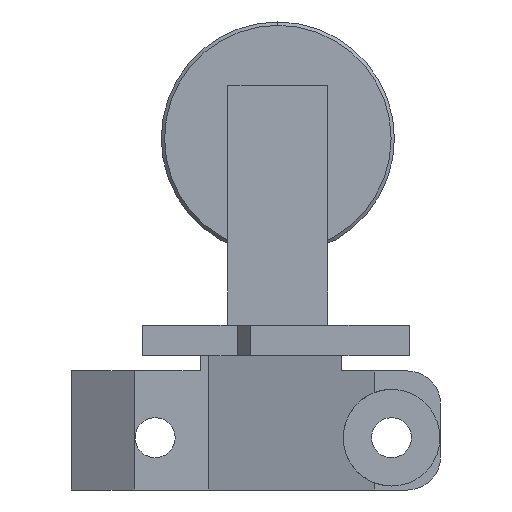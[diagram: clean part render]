
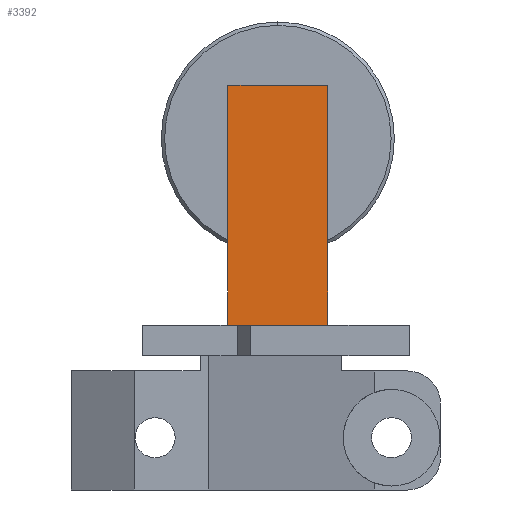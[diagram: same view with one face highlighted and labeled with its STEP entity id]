
A CAD part, left-side view. The second image highlights one B-rep face of the part: STEP entity #3392.
In plain terms, the highlighted planar face has unit normal (-1, 0, 0).
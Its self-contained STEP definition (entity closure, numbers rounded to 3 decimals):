
#58 = CARTESIAN_POINT ( 'NONE',  ( 216.3, 119.918, 67.8 ) ) ;
#131 = CARTESIAN_POINT ( 'NONE',  ( 216.3, 119.918, 31.8 ) ) ;
#185 = VERTEX_POINT ( 'NONE', #1727 ) ;
#209 = EDGE_CURVE ( 'NONE', #185, #4187, #2854, .T. ) ;
#255 = VECTOR ( 'NONE', #2017, 1000. ) ;
#491 = DIRECTION ( 'NONE',  ( 1., 0., 0. ) ) ;
#753 = DIRECTION ( 'NONE',  ( 0., -1., 0. ) ) ;
#838 = FACE_OUTER_BOUND ( 'NONE', #3729, .T. ) ;
#869 = VECTOR ( 'NONE', #753, 1000. ) ;
#914 = LINE ( 'NONE', #4614, #1995 ) ;
#1075 = ORIENTED_EDGE ( 'NONE', *, *, #2240, .F. ) ;
#1195 = VECTOR ( 'NONE', #2126, 1000. ) ;
#1347 = CARTESIAN_POINT ( 'NONE',  ( 216.3, 120.756, 31.8 ) ) ;
#1499 = ORIENTED_EDGE ( 'NONE', *, *, #4534, .T. ) ;
#1727 = CARTESIAN_POINT ( 'NONE',  ( 216.3, 134.918, 67.8 ) ) ;
#1995 = VECTOR ( 'NONE', #3691, 1000. ) ;
#2017 = DIRECTION ( 'NONE',  ( 0., -1., 0. ) ) ;
#2126 = DIRECTION ( 'NONE',  ( 0., 0., -1. ) ) ;
#2240 = EDGE_CURVE ( 'NONE', #185, #2345, #914, .T. ) ;
#2345 = VERTEX_POINT ( 'NONE', #3353 ) ;
#2414 = VERTEX_POINT ( 'NONE', #131 ) ;
#2484 = ORIENTED_EDGE ( 'NONE', *, *, #5506, .F. ) ;
#2662 = PLANE ( 'NONE',  #5325 ) ;
#2854 = LINE ( 'NONE', #5607, #1195 ) ;
#2918 = LINE ( 'NONE', #5535, #255 ) ;
#2934 = ORIENTED_EDGE ( 'NONE', *, *, #5586, .T. ) ;
#3268 = ORIENTED_EDGE ( 'NONE', *, *, #209, .T. ) ;
#3320 = CARTESIAN_POINT ( 'NONE',  ( 216.3, 119.918, 67.8 ) ) ;
#3353 = CARTESIAN_POINT ( 'NONE',  ( 216.3, 119.918, 67.8 ) ) ;
#3392 = ADVANCED_FACE ( 'NONE', ( #838 ), #2662, .F. ) ;
#3529 = DIRECTION ( 'NONE',  ( 0., 0., -1. ) ) ;
#3554 = VERTEX_POINT ( 'NONE', #1347 ) ;
#3691 = DIRECTION ( 'NONE',  ( 0., -1., 0. ) ) ;
#3729 = EDGE_LOOP ( 'NONE', ( #1499, #2934, #2484, #1075, #3268 ) ) ;
#3995 = LINE ( 'NONE', #5071, #869 ) ;
#4187 = VERTEX_POINT ( 'NONE', #5514 ) ;
#4478 = VECTOR ( 'NONE', #4692, 1000. ) ;
#4534 = EDGE_CURVE ( 'NONE', #4187, #3554, #3995, .T. ) ;
#4614 = CARTESIAN_POINT ( 'NONE',  ( 216.3, 119.918, 67.8 ) ) ;
#4692 = DIRECTION ( 'NONE',  ( 0., 0., -1. ) ) ;
#5071 = CARTESIAN_POINT ( 'NONE',  ( 216.3, 119.918, 31.8 ) ) ;
#5325 = AXIS2_PLACEMENT_3D ( 'NONE', #58, #491, #3529 ) ;
#5506 = EDGE_CURVE ( 'NONE', #2345, #2414, #5627, .T. ) ;
#5514 = CARTESIAN_POINT ( 'NONE',  ( 216.3, 134.918, 31.8 ) ) ;
#5535 = CARTESIAN_POINT ( 'NONE',  ( 216.3, 119.918, 31.8 ) ) ;
#5586 = EDGE_CURVE ( 'NONE', #3554, #2414, #2918, .T. ) ;
#5607 = CARTESIAN_POINT ( 'NONE',  ( 216.3, 134.918, 67.8 ) ) ;
#5627 = LINE ( 'NONE', #3320, #4478 ) ;
